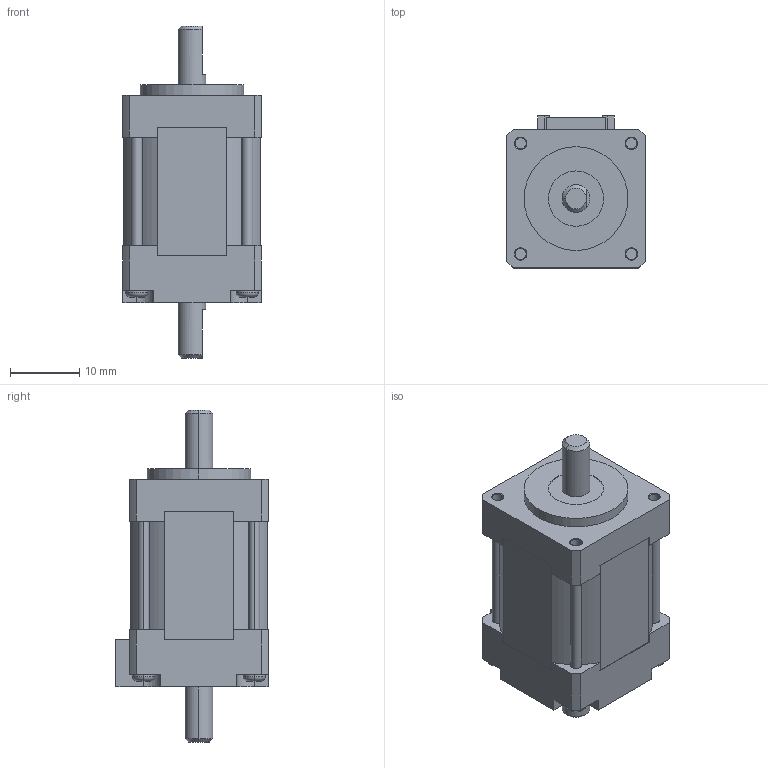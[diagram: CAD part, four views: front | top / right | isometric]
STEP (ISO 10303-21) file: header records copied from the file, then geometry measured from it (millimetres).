
FILE_DESCRIPTION (( 'STEP AP214' ), '1' );
FILE_NAME ('TS3692N51.STEP', '2011-09-15T08:56:02', ( '' ), ( '' ), 'SwSTEP 2.0', 'SolidWorks 2010', '' );
FILE_SCHEMA (( 'AUTOMOTIVE_DESIGN' ));
Length unit declared in the file: millimetre
Products named in the file (1): TS3692N51
Bounding box: 20 x 22 x 48 mm (x, y, z)
Volume: 11713 mm3; surface area: 4114.5 mm2
Topology: 1 solids, 1 shells, 233 faces, 646 edges, 422 vertices
Faces by surface type: plane 115, cylinder 96, cone 14, torus 8
Entity records: 8046 total; most frequent: CARTESIAN_POINT 1490, DIRECTION 1332, ORIENTED_EDGE 1292, EDGE_CURVE 646, AXIS2_PLACEMENT_3D 488, VERTEX_POINT 422, LINE 356, VECTOR 356
